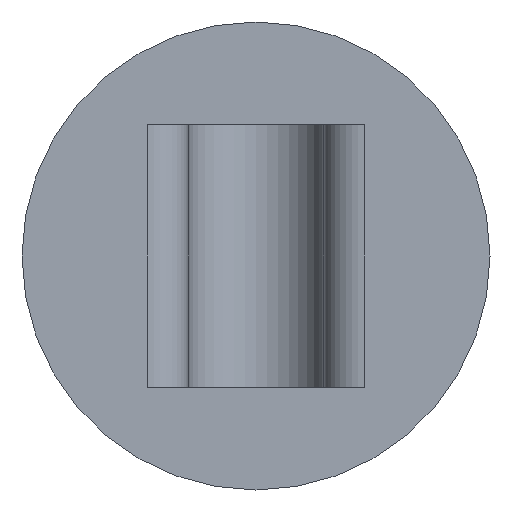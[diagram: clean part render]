
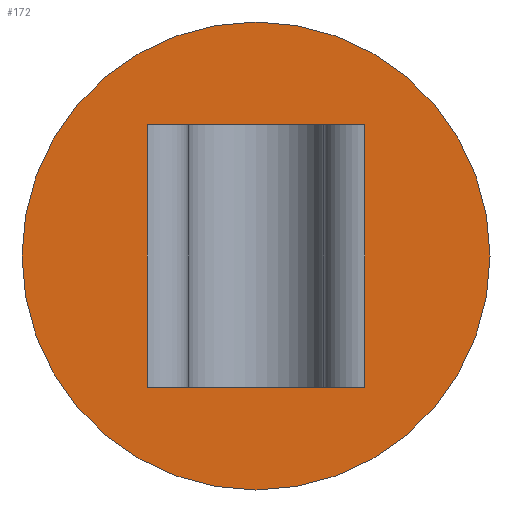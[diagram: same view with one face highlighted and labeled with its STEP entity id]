
A CAD part, front view. The second image highlights one B-rep face of the part: STEP entity #172.
In plain terms, the highlighted planar face has unit normal (0, -1, 0).
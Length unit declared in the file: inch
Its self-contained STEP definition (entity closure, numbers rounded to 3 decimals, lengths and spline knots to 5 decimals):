
#16 = AXIS2_PLACEMENT_3D ( 'NONE', #205, #90, #374 ) ;
#19 = ORIENTED_EDGE ( 'NONE', *, *, #79, .T. ) ;
#20 = DIRECTION ( 'NONE',  ( 0., -1., 0. ) ) ;
#22 = CARTESIAN_POINT ( 'NONE',  ( 0.29103, -0.047, 0.7 ) ) ;
#48 = EDGE_CURVE ( 'NONE', #487, #470, #418, .T. ) ;
#79 = EDGE_CURVE ( 'NONE', #480, #351, #481, .T. ) ;
#85 = DIRECTION ( 'NONE',  ( 0., 1., 0. ) ) ;
#90 = DIRECTION ( 'NONE',  ( 0., -1., 0. ) ) ;
#97 = LINE ( 'NONE', #430, #245 ) ;
#116 = EDGE_CURVE ( 'NONE', #230, #365, #171, .T. ) ;
#123 = AXIS2_PLACEMENT_3D ( 'NONE', #366, #20, #525 ) ;
#142 = CARTESIAN_POINT ( 'NONE',  ( 0.29103, -0.047, 0. ) ) ;
#146 = CIRCLE ( 'NONE', #123, 0.625 ) ;
#161 = CARTESIAN_POINT ( 'NONE',  ( 0.29103, -0.047, 0. ) ) ;
#167 = EDGE_LOOP ( 'NONE', ( #416, #19 ) ) ;
#171 = LINE ( 'NONE', #386, #191 ) ;
#172 = ADVANCED_FACE ( 'NONE', ( #298, #208 ), #376, .F. ) ;
#174 = ORIENTED_EDGE ( 'NONE', *, *, #48, .T. ) ;
#176 = LINE ( 'NONE', #142, #405 ) ;
#177 = ORIENTED_EDGE ( 'NONE', *, *, #260, .F. ) ;
#182 = DIRECTION ( 'NONE',  ( 0., 0., 1. ) ) ;
#187 = ORIENTED_EDGE ( 'NONE', *, *, #272, .T. ) ;
#191 = VECTOR ( 'NONE', #381, 39.37008 ) ;
#196 = CARTESIAN_POINT ( 'NONE',  ( -0.29103, -0.047, 0.7 ) ) ;
#205 = CARTESIAN_POINT ( 'NONE',  ( 0., -0.047, 0.35 ) ) ;
#208 = FACE_BOUND ( 'NONE', #408, .T. ) ;
#214 = VECTOR ( 'NONE', #261, 39.37008 ) ;
#220 = CARTESIAN_POINT ( 'NONE',  ( 0.625, -0.047, 0.35 ) ) ;
#230 = VERTEX_POINT ( 'NONE', #349 ) ;
#245 = VECTOR ( 'NONE', #478, 39.37008 ) ;
#260 = EDGE_CURVE ( 'NONE', #365, #470, #176, .T. ) ;
#261 = DIRECTION ( 'NONE',  ( 1., 0., 0. ) ) ;
#272 = EDGE_CURVE ( 'NONE', #230, #487, #97, .T. ) ;
#287 = ORIENTED_EDGE ( 'NONE', *, *, #116, .F. ) ;
#298 = FACE_OUTER_BOUND ( 'NONE', #167, .T. ) ;
#349 = CARTESIAN_POINT ( 'NONE',  ( -0.29103, -0.047, 0. ) ) ;
#351 = VERTEX_POINT ( 'NONE', #220 ) ;
#359 = AXIS2_PLACEMENT_3D ( 'NONE', #501, #85, #460 ) ;
#365 = VERTEX_POINT ( 'NONE', #161 ) ;
#366 = CARTESIAN_POINT ( 'NONE',  ( 0., -0.047, 0.35 ) ) ;
#374 = DIRECTION ( 'NONE',  ( 1., 0., 0. ) ) ;
#376 = PLANE ( 'NONE',  #359 ) ;
#381 = DIRECTION ( 'NONE',  ( 1., 0., 0. ) ) ;
#384 = CARTESIAN_POINT ( 'NONE',  ( -0.29103, -0.047, 0.7 ) ) ;
#386 = CARTESIAN_POINT ( 'NONE',  ( -0.29103, -0.047, 0. ) ) ;
#405 = VECTOR ( 'NONE', #182, 39.37008 ) ;
#408 = EDGE_LOOP ( 'NONE', ( #287, #187, #174, #177 ) ) ;
#416 = ORIENTED_EDGE ( 'NONE', *, *, #489, .T. ) ;
#418 = LINE ( 'NONE', #384, #214 ) ;
#430 = CARTESIAN_POINT ( 'NONE',  ( -0.29103, -0.047, 0. ) ) ;
#460 = DIRECTION ( 'NONE',  ( 0., 0., 1. ) ) ;
#470 = VERTEX_POINT ( 'NONE', #22 ) ;
#478 = DIRECTION ( 'NONE',  ( 0., 0., 1. ) ) ;
#480 = VERTEX_POINT ( 'NONE', #531 ) ;
#481 = CIRCLE ( 'NONE', #16, 0.625 ) ;
#487 = VERTEX_POINT ( 'NONE', #196 ) ;
#489 = EDGE_CURVE ( 'NONE', #351, #480, #146, .T. ) ;
#501 = CARTESIAN_POINT ( 'NONE',  ( -0.625, -0.047, 0.7 ) ) ;
#525 = DIRECTION ( 'NONE',  ( 1., 0., 0. ) ) ;
#531 = CARTESIAN_POINT ( 'NONE',  ( -0.625, -0.047, 0.35 ) ) ;
